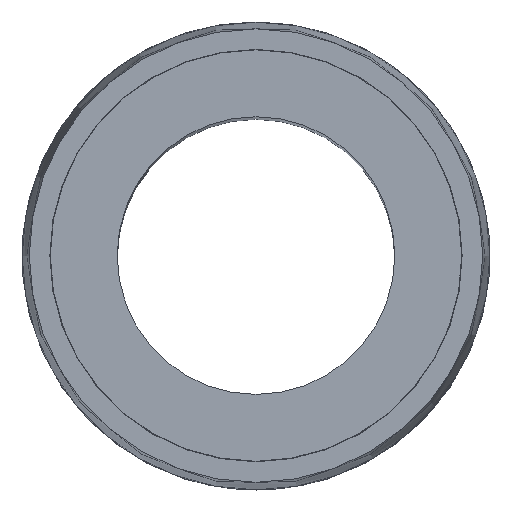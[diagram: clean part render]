
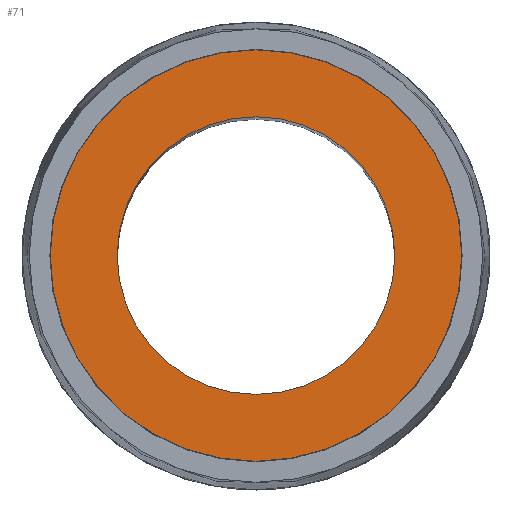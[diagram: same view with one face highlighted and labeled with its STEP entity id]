
A CAD part, top view. The second image highlights one B-rep face of the part: STEP entity #71.
In plain terms, the highlighted planar face has unit normal (0, 0, 1).
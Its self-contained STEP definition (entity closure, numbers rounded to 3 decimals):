
#71 = ADVANCED_FACE( '', ( #150, #151 ), #152, .F. );
#150 = FACE_OUTER_BOUND( '', #243, .T. );
#151 = FACE_BOUND( '', #244, .T. );
#152 = PLANE( '', #245 );
#243 = EDGE_LOOP( '', ( #344 ) );
#244 = EDGE_LOOP( '', ( #345 ) );
#245 = AXIS2_PLACEMENT_3D( '', #346, #347, #348 );
#344 = ORIENTED_EDGE( '', *, *, #470, .T. );
#345 = ORIENTED_EDGE( '', *, *, #471, .F. );
#346 = CARTESIAN_POINT( '', ( 0., -14.82, 0. ) );
#347 = DIRECTION( '', ( 0., 0., -1. ) );
#348 = DIRECTION( '', ( 0., -1., 0. ) );
#470 = EDGE_CURVE( '', #539, #539, #540, .T. );
#471 = EDGE_CURVE( '', #541, #541, #542, .F. );
#539 = VERTEX_POINT( '', #642 );
#540 = CIRCLE( '', #643, 14.82 );
#541 = VERTEX_POINT( '', #644 );
#542 = CIRCLE( '', #645, 10. );
#642 = CARTESIAN_POINT( '', ( 0., -14.82, 0. ) );
#643 = AXIS2_PLACEMENT_3D( '', #748, #749, #750 );
#644 = CARTESIAN_POINT( '', ( -10., 0., 0. ) );
#645 = AXIS2_PLACEMENT_3D( '', #751, #752, #753 );
#748 = CARTESIAN_POINT( '', ( 0., 0., 0. ) );
#749 = DIRECTION( '', ( 0., 0., 1. ) );
#750 = DIRECTION( '', ( 0., -1., 0. ) );
#751 = CARTESIAN_POINT( '', ( 0., 0., 0. ) );
#752 = DIRECTION( '', ( 0., 0., -1. ) );
#753 = DIRECTION( '', ( -1., 0., 0. ) );
